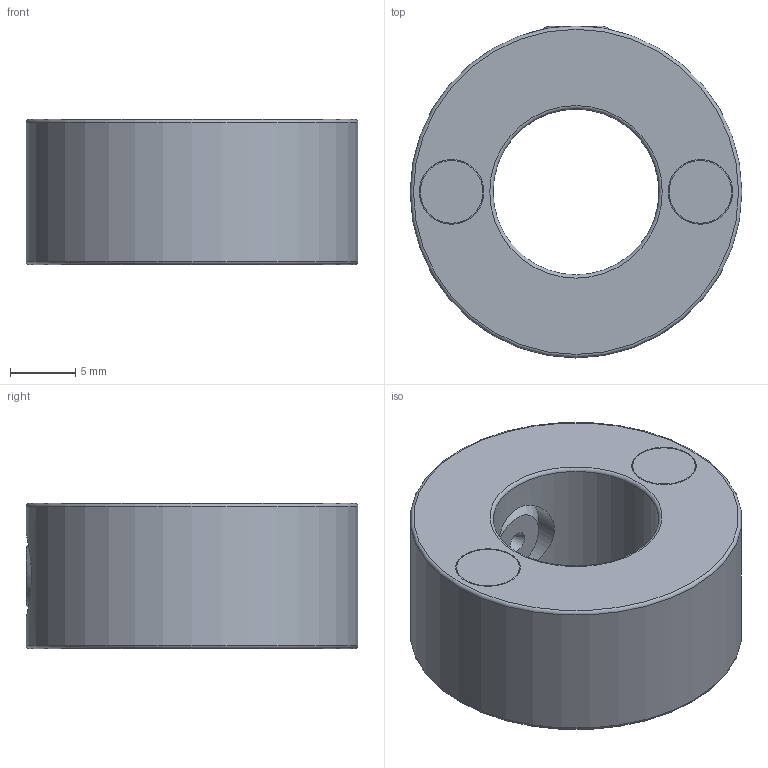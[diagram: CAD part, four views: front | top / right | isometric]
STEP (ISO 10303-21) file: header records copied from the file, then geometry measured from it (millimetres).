
FILE_DESCRIPTION(/* description */ (''),/* implementation_level */ '2;1');
FILE_NAME(/* name */ 'MAG-COL-2-4-CUST-ASSY.step',/* time_stamp */ '2025-10-02T13:21:30-05:00',/* author */ (''),/* organization */ (''),/* preprocessor_version */ 'ST-DEVELOPER v20.1',/* originating_system */ 'Autodesk Translation Framework v14.17.0.0',/* authorisation */ '');
FILE_SCHEMA (('AUTOMOTIVE_DESIGN { 1 0 10303 214 3 1 1 }'));
Length unit declared in the file: inch
Products named in the file (2): MAG-COL-2-4-CUST-ASSY; CYL0159
Assembly tree (2 placements, depth 2):
  MAG-COL-2-4-CUST-ASSY
    CYL0159  x2
Bounding box: 25.4 x 25.4 x 11.11 mm (x, y, z)
Volume: 4144.1 mm3; surface area: 2986.3 mm2
Topology: 4 solids, 4 shells, 34 faces, 71 edges, 46 vertices
Faces by surface type: plane 15, torus 8, cylinder 8, cone 3
Full cylindrical faces by diameter (mm): 4.95 x2, 5 x2, 6.35 x2, 12.7 x1, 25.4 x1
Entity records: 950 total; most frequent: CARTESIAN_POINT 206, DIRECTION 158, ORIENTED_EDGE 126, AXIS2_PLACEMENT_3D 65, EDGE_CURVE 63, VERTEX_POINT 42, EDGE_LOOP 39, CIRCLE 32
